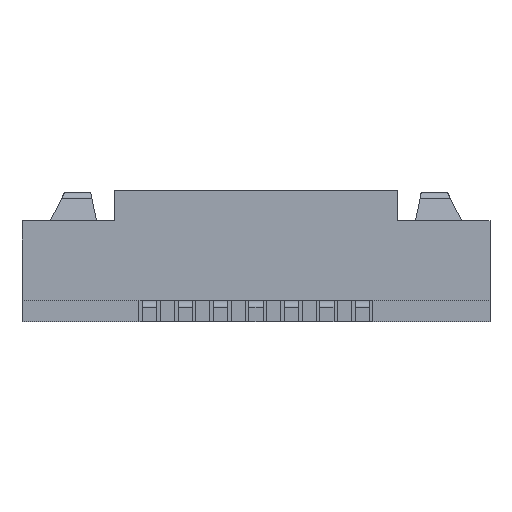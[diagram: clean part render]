
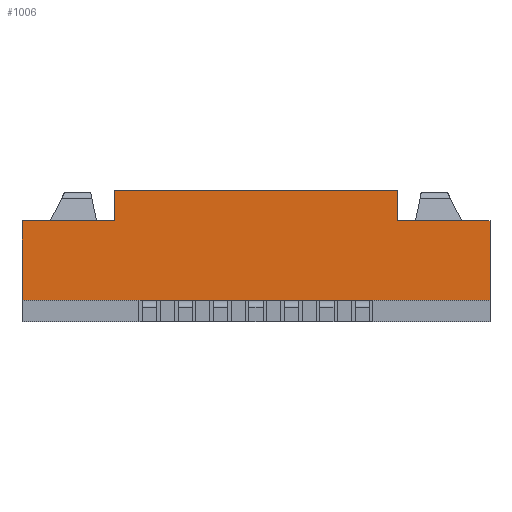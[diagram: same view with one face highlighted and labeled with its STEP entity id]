
A CAD part, front view. The second image highlights one B-rep face of the part: STEP entity #1006.
In plain terms, the highlighted planar face has unit normal (0, -1, 0).
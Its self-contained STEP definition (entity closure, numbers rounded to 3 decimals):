
#399=CARTESIAN_POINT('Vertex',(-2.,-2.4,1.42)) ;
#402=CARTESIAN_POINT('Line Origine',(-2.,-2.4,1.635)) ;
#406=CARTESIAN_POINT('Vertex',(-2.,-2.4,1.85)) ;
#944=CARTESIAN_POINT('Axis2P3D Location',(0.,-2.4,0.3)) ;
#949=CARTESIAN_POINT('Line Origine',(-2.65,-2.4,1.42)) ;
#953=CARTESIAN_POINT('Vertex',(-3.3,-2.4,1.42)) ;
#956=CARTESIAN_POINT('Line Origine',(-3.3,-2.4,0.86)) ;
#960=CARTESIAN_POINT('Vertex',(-3.3,-2.4,0.3)) ;
#963=CARTESIAN_POINT('Line Origine',(0.,-2.4,0.3)) ;
#967=CARTESIAN_POINT('Vertex',(3.3,-2.4,0.3)) ;
#970=CARTESIAN_POINT('Line Origine',(3.3,-2.4,0.86)) ;
#974=CARTESIAN_POINT('Vertex',(3.3,-2.4,1.42)) ;
#977=CARTESIAN_POINT('Line Origine',(2.65,-2.4,1.42)) ;
#981=CARTESIAN_POINT('Vertex',(2.,-2.4,1.42)) ;
#984=CARTESIAN_POINT('Line Origine',(2.,-2.4,1.635)) ;
#988=CARTESIAN_POINT('Vertex',(2.,-2.4,1.85)) ;
#991=CARTESIAN_POINT('Line Origine',(0.,-2.4,1.85)) ;
#403=DIRECTION('Vector Direction',(0.,0.,-1.)) ;
#945=DIRECTION('Axis2P3D Direction',(0.,1.,0.)) ;
#946=DIRECTION('Axis2P3D XDirection',(0.,0.,1.)) ;
#950=DIRECTION('Vector Direction',(1.,0.,0.)) ;
#957=DIRECTION('Vector Direction',(0.,0.,1.)) ;
#964=DIRECTION('Vector Direction',(1.,0.,0.)) ;
#971=DIRECTION('Vector Direction',(0.,0.,1.)) ;
#978=DIRECTION('Vector Direction',(-1.,0.,0.)) ;
#985=DIRECTION('Vector Direction',(0.,0.,-1.)) ;
#992=DIRECTION('Vector Direction',(1.,0.,0.)) ;
#947=AXIS2_PLACEMENT_3D('Plane Axis2P3D',#944,#945,#946) ;
#997=ORIENTED_EDGE('',*,*,#408,.T.) ;
#998=ORIENTED_EDGE('',*,*,#955,.F.) ;
#999=ORIENTED_EDGE('',*,*,#962,.T.) ;
#1000=ORIENTED_EDGE('',*,*,#969,.T.) ;
#1001=ORIENTED_EDGE('',*,*,#976,.F.) ;
#1002=ORIENTED_EDGE('',*,*,#983,.T.) ;
#1003=ORIENTED_EDGE('',*,*,#990,.F.) ;
#1004=ORIENTED_EDGE('',*,*,#995,.F.) ;
#404=VECTOR('Line Direction',#403,1.) ;
#951=VECTOR('Line Direction',#950,1.) ;
#958=VECTOR('Line Direction',#957,1.) ;
#965=VECTOR('Line Direction',#964,1.) ;
#972=VECTOR('Line Direction',#971,1.) ;
#979=VECTOR('Line Direction',#978,1.) ;
#986=VECTOR('Line Direction',#985,1.) ;
#993=VECTOR('Line Direction',#992,1.) ;
#1006=ADVANCED_FACE('\X2\96F64EF651E04F554F53\X0\',(#1005),#948,.F.) ;
#408=EDGE_CURVE('',#407,#400,#405,.T.) ;
#955=EDGE_CURVE('',#954,#400,#952,.T.) ;
#962=EDGE_CURVE('',#954,#961,#959,.F.) ;
#969=EDGE_CURVE('',#961,#968,#966,.T.) ;
#976=EDGE_CURVE('',#975,#968,#973,.F.) ;
#983=EDGE_CURVE('',#975,#982,#980,.T.) ;
#990=EDGE_CURVE('',#989,#982,#987,.T.) ;
#995=EDGE_CURVE('',#407,#989,#994,.T.) ;
#996=EDGE_LOOP('',(#997,#998,#999,#1000,#1001,#1002,#1003,#1004)) ;
#1005=FACE_OUTER_BOUND('',#996,.T.) ;
#405=LINE('Line',#402,#404) ;
#952=LINE('Line',#949,#951) ;
#959=LINE('Line',#956,#958) ;
#966=LINE('Line',#963,#965) ;
#973=LINE('Line',#970,#972) ;
#980=LINE('Line',#977,#979) ;
#987=LINE('Line',#984,#986) ;
#994=LINE('Line',#991,#993) ;
#948=PLANE('Plane',#947) ;
#400=VERTEX_POINT('',#399) ;
#407=VERTEX_POINT('',#406) ;
#954=VERTEX_POINT('',#953) ;
#961=VERTEX_POINT('',#960) ;
#968=VERTEX_POINT('',#967) ;
#975=VERTEX_POINT('',#974) ;
#982=VERTEX_POINT('',#981) ;
#989=VERTEX_POINT('',#988) ;
